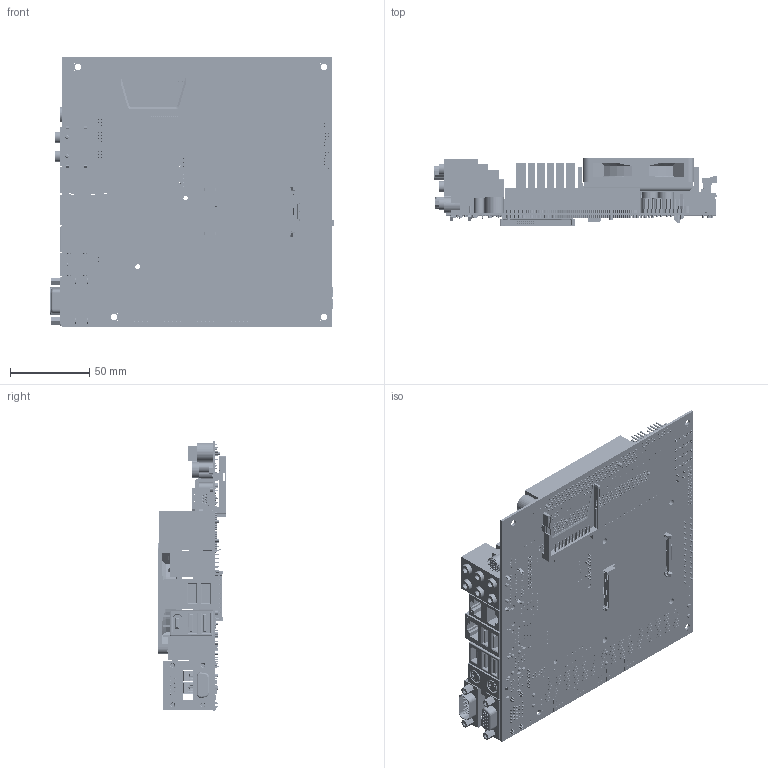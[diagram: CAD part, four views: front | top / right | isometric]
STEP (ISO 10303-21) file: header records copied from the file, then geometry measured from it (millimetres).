
FILE_DESCRIPTION (( 'STEP AP203' ), '1' );
FILE_NAME ('KTGM45_MITX.STEP', '2010-02-02T02:22:16', ( 'Pranit Banthia' ), ( 'Hi Tech Outsourcing Services' ), 'SwSTEP 2.0', 'SolidWorks 2007', '' );
FILE_SCHEMA (( 'CONFIG_CONTROL_DESIGN' ));
Products named in the file (45): J32, J33, J34; J22; J42; BAT1; C958; U5; J39; J28; J38; J8,J9,J10, J11; J14; J6; J20; C860, C1076, C1077, C1078, C1079; U14; SPKR1; C813, C814, C815, C957; J19, J23, J24; J13; C (other); J40, J41; U47 COOLER RETENTION; U47 COOLER HEATSINK; U47 COOLER; U47; J1; U5 HEATSINK; L74, L75, L76; J21 – Compact Flash; J15 – Mini PCI Express; J15 LATCH; KTGM45_MITX; PCB_KTGM45_MITX; J4; J35; J18; J29; J25; J44; J26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
Assembly tree (92 placements, depth 2):
  KTGM45_MITX
    C (other)  x31
    J1
    J44
    J2, J3  x2
    C958
    J14
    U47 COOLER
    U47
    J32, J33, J34  x3
    U47 COOLER HEATSINK
    L74, L75, L76  x3
    J21 – Compact Flash
    J15 LATCH
    C860, C1076, C1077, C1078, C1079  x5
    J35
    J27
    U14
    J19, J23, J24  x3
    J4
    J29
    C813, C814, C815, C957  x4
    J13
    J15 – Mini PCI Express
    J8,J9,J10, J11  x4
    J40, J41  x2
    J36
    BAT1
    J39
    SPKR1
    U47 COOLER RETENTION
    U5
    J20
    J26
    J5
    J42
    U5 HEATSINK
    J22
    J28
    J38
    PCB_KTGM45_MITX
    J25
    J16
    J6
    J18
Bounding box: 178.25 x 43.17 x 170.18 mm (x, y, z)
Volume: 282857.6 mm3; surface area: 278255.6 mm2
Topology: 102 solids, 102 shells, 16955 faces, 44851 edges, 29139 vertices
Faces by surface type: plane 9872, cylinder 6159, cone 541, sphere 320, bspline 63
Entity records: 484460 total; most frequent: CARTESIAN_POINT 83872, DIRECTION 83392, ORIENTED_EDGE 80140, EDGE_CURVE 40070, AXIS2_PLACEMENT_3D 28265, LINE 26862, VECTOR 26862, VERTEX_POINT 26083
